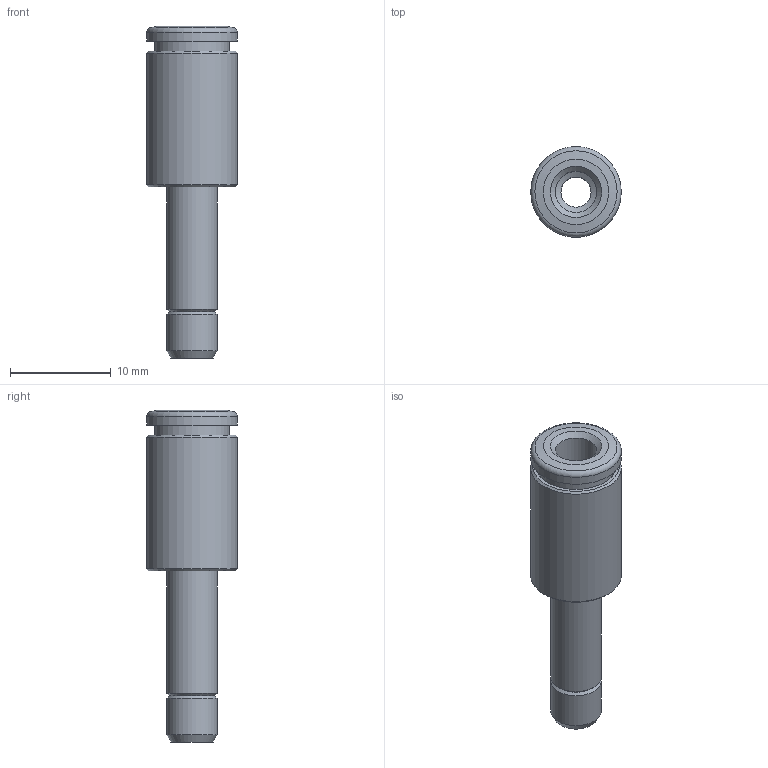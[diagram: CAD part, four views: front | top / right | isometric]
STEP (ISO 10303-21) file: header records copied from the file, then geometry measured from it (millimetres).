
FILE_DESCRIPTION(('Bauteilbeschreibung','HiCAD-Model','HiCAD-STEP-TRANSLATION','Bauteilbeschreibung'),'2;1');
FILE_NAME('B:/ABGLEICH/ZEICHNUNGEN/STEP FÜR INTERNET/STEP/IPSO 08/200801_IPSO_08_5_4.STP','2012-03-13T10:46:06+00:00',('Konstrukteur'),('Konstrukteur Firma GmbH'),' HiCAD neXt 2008, Step 3.1.1401.2J ','HiCAD neXt 2008','confidential');
FILE_SCHEMA(('AUTOMOTIVE_DESIGN { 1 2 10303 214 0 1 1 1 }'));
Length unit declared in the file: millimetre
Products named in the file (3): A00801_IPSO_08_5_4; R200801; DR4_1_NEU
Assembly tree (2 placements, depth 2):
  A00801_IPSO_08_5_4
    R200801
    DR4_1_NEU
Bounding box: 9 x 9 x 33 mm (x, y, z)
Volume: 849.9 mm3; surface area: 1541.4 mm2
Topology: 2 solids, 2 shells, 32 faces, 58 edges, 33 vertices
Faces by surface type: cone 13, cylinder 11, plane 7, torus 1
Full cylindrical faces by diameter (mm): 3 x1, 4.1 x2, 5 x2, 6.4 x1, 7.3 x1, 7.4 x1, 7.6 x1, 9 x2
Entity records: 888 total; most frequent: DIRECTION 136, CARTESIAN_POINT 100, AXIS2_PLACEMENT_3D 68, EDGE_LOOP 64, ORIENTED_EDGE 64, COLOUR_RGB 34, PRESENTATION_STYLE_ASSIGNMENT 34, ADVANCED_FACE 32
